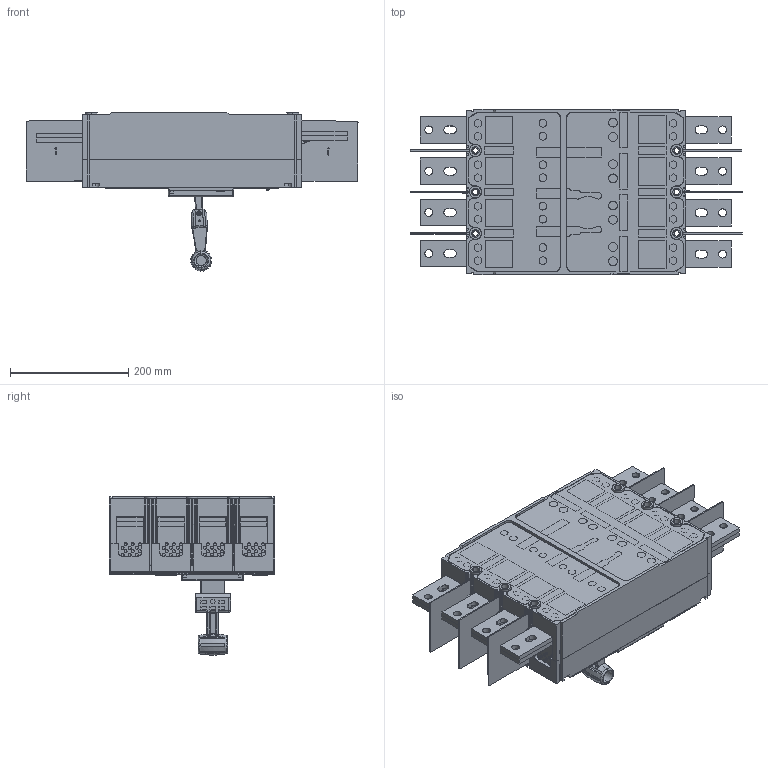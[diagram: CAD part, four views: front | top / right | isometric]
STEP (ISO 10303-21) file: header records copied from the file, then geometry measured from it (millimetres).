
FILE_DESCRIPTION((''),'2;1');
FILE_NAME('HGM1000_1250A_4P_ASM','2022-03-07T',('HHI'),(''),'PRO/ENGINEER BY PARAMETRIC TECHNOLOGY CORPORATION, 2017170','PRO/ENGINEER BY PARAMETRIC TECHNOLOGY CORPORATION, 2017170','');
FILE_SCHEMA(('CONFIG_CONTROL_DESIGN'));
Products named in the file (198): 03-01-06_KUTUP_PERDESI_REV02_92; 050242_AKSESUAR_KAPAGI_REV01_PR; 05-04-01_GIRIS_CIKIS_UZATMA_BAR; 05-01-41_F92EN_G_VDE_REV_01_HER; 05-22-00_GIRIS_HAVALANDIRMA_PEN; 03-02-85_TRIP_BUTONU_REV01_HERH; 052300_CIKIS_HAVALANDIRMA_PENCE; 050142_ALT_PLAKA-1REV02_PRT_HER; Y_KSEKLIK-EKSTR_ZYON1_1_-24976; Y_KSEKLIK-EKSTR_ZYON1_3_-69454; Y_KSEKLIK-EKSTR_ZYON1_4_-90362; Y_KSEKLIK-EKSTR_ZYON1_2_-218725; PAR_A_LINE_HERHANG__ASM; 05-02-41_F92EN_KAPAK_REV_02_HER; Y_KSEKLIK-EKSTR_ZYON3_73_; Y_KSEKLIK-EKSTR_ZYON3_35_; Y_KSEKLIK-EKSTR_ZYON3_4_-4349; Y_KSEKLIK-EKSTR_ZYON3_101_; Y_KSEKLIK-EKSTR_ZYON3_44_; Y_KSEKLIK-EKSTR_ZYON3_45_; Y_KSEKLIK-EKSTR_ZYON3_55_; Y_KSEKLIK-EKSTR_ZYON3_22_; Y_KSEKLIK-EKSTR_ZYON3_56_; Y_KSEKLIK-EKSTR_ZYON3_102_; Y_KSEKLIK-EKSTR_ZYON3_122_; Y_KSEKLIK-EKSTR_ZYON3_93_; Y_KSEKLIK-EKSTR_ZYON3_43_; Y_KSEKLIK-EKSTR_ZYON3_57_; Y_KSEKLIK-EKSTR_ZYON3_29_; Y_KSEKLIK-EKSTR_ZYON3_127_; Y_KSEKLIK-EKSTR_ZYON3_99_; Y_KSEKLIK-EKSTR_ZYON3_16_; Y_KSEKLIK-EKSTR_ZYON3_117_; Y_KSEKLIK-EKSTR_ZYON3_36_; Y_KSEKLIK-EKSTR_ZYON3_88_; Y_KSEKLIK-EKSTR_ZYON3_41_; Y_KSEKLIK-EKSTR_ZYON3_113_; Y_KSEKLIK-EKSTR_ZYON3_81_; Y_KSEKLIK-EKSTR_ZYON3_11_; Y_KSEKLIK-EKSTR_ZYON3_30_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
Assembly tree (225 placements, depth 4):
  HGM1000_1250A_4P_ASM
    F92E_1250A_4P_HERHANG__ASM
      03-01-06_KUTUP_PERDESI_REV02_92  x6
      050242_AKSESUAR_KAPAGI_REV01_PR
      05-04-01_GIRIS_CIKIS_UZATMA_BAR  x16
      05-01-41_F92EN_G_VDE_REV_01_HER
      05-22-00_GIRIS_HAVALANDIRMA_PEN  x4
      03-02-85_TRIP_BUTONU_REV01_HERH
      052300_CIKIS_HAVALANDIRMA_PENCE  x6
      050142_ALT_PLAKA-1REV02_PRT_HER
      PAR_A_LINE_HERHANG__ASM
        Y_KSEKLIK-EKSTR_ZYON1_1_-24976
        Y_KSEKLIK-EKSTR_ZYON1_3_-69454
        Y_KSEKLIK-EKSTR_ZYON1_4_-90362
        Y_KSEKLIK-EKSTR_ZYON1_2_-218725
      05-02-41_F92EN_KAPAK_REV_02_HER
      PAR_A1_HERHANG__ASM
        Y_KSEKLIK-EKSTR_ZYON3_73_
        Y_KSEKLIK-EKSTR_ZYON3_35_
        Y_KSEKLIK-EKSTR_ZYON3_4_-4349
        Y_KSEKLIK-EKSTR_ZYON3_101_
        Y_KSEKLIK-EKSTR_ZYON3_44_
        Y_KSEKLIK-EKSTR_ZYON3_45_
        Y_KSEKLIK-EKSTR_ZYON3_55_
        Y_KSEKLIK-EKSTR_ZYON3_22_
        Y_KSEKLIK-EKSTR_ZYON3_56_
        Y_KSEKLIK-EKSTR_ZYON3_102_
        Y_KSEKLIK-EKSTR_ZYON3_122_
        Y_KSEKLIK-EKSTR_ZYON3_93_
        Y_KSEKLIK-EKSTR_ZYON3_43_
        Y_KSEKLIK-EKSTR_ZYON3_57_
        Y_KSEKLIK-EKSTR_ZYON3_29_
        Y_KSEKLIK-EKSTR_ZYON3_127_
        Y_KSEKLIK-EKSTR_ZYON3_99_
        Y_KSEKLIK-EKSTR_ZYON3_16_
        Y_KSEKLIK-EKSTR_ZYON3_117_
        Y_KSEKLIK-EKSTR_ZYON3_36_
        Y_KSEKLIK-EKSTR_ZYON3_88_
        Y_KSEKLIK-EKSTR_ZYON3_41_
        Y_KSEKLIK-EKSTR_ZYON3_113_
        Y_KSEKLIK-EKSTR_ZYON3_81_
        Y_KSEKLIK-EKSTR_ZYON3_11_
        Y_KSEKLIK-EKSTR_ZYON3_30_
        Y_KSEKLIK-EKSTR_ZYON3_5_-55275
        Y_KSEKLIK-EKSTR_ZYON3_66_
        Y_KSEKLIK-EKSTR_ZYON3_69_
        Y_KSEKLIK-EKSTR_ZYON3_51_
        Y_KSEKLIK-EKSTR_ZYON3_70_
        Y_KSEKLIK-EKSTR_ZYON3_126_
        Y_KSEKLIK-EKSTR_ZYON3_24_
        Y_KSEKLIK-EKSTR_ZYON3_64_
        Y_KSEKLIK-EKSTR_ZYON3_121_
        Y_KSEKLIK-EKSTR_ZYON3_46_
        Y_KSEKLIK-EKSTR_ZYON3_38_
        Y_KSEKLIK-EKSTR_ZYON3_26_
        Y_KSEKLIK-EKSTR_ZYON3_21_
        Y_KSEKLIK-EKSTR_ZYON3_86_
        Y_KSEKLIK-EKSTR_ZYON3_1_-86115
        Y_KSEKLIK-EKSTR_ZYON3_17_
        Y_KSEKLIK-EKSTR_ZYON3_13_
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Bounding box: 560.79 x 280 x 267.52 mm (x, y, z)
Volume: 12292741.4 mm3; surface area: 1621220.1 mm2
Topology: 219 solids, 231 shells, 6890 faces, 18497 edges, 12222 vertices
Faces by surface type: plane 3951, extrusion 1375, cylinder 1267, cone 159, bspline 76, torus 36, sphere 26
Entity records: 196731 total; most frequent: CARTESIAN_POINT 49133, ORIENTED_EDGE 31450, DIRECTION 25898, EDGE_CURVE 15725, VECTOR 12172, LINE 10797, VERTEX_POINT 10400, AXIS2_PLACEMENT_3D 6863
